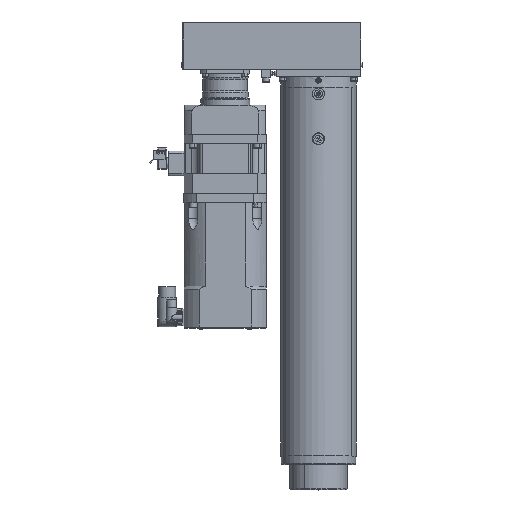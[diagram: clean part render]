
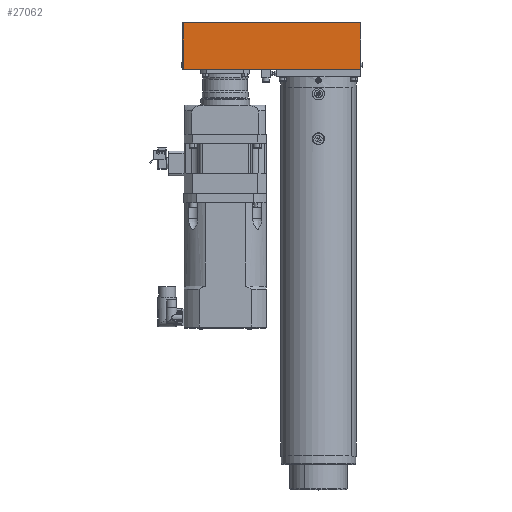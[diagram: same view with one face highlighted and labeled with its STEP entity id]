
A CAD part, top view. The second image highlights one B-rep face of the part: STEP entity #27062.
In plain terms, the highlighted planar face has unit normal (0, 0, 1).
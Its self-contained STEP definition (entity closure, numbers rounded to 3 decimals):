
#1762 = LINE ( 'NONE', #15530, #46093 ) ;
#2066 = LINE ( 'NONE', #50820, #13946 ) ;
#5300 = PLANE ( 'NONE',  #19189 ) ;
#6349 = EDGE_CURVE ( 'NONE', #44905, #47916, #23352, .T. ) ;
#8986 = CARTESIAN_POINT ( 'NONE',  ( -419.5, 1041.5, 199.5 ) ) ;
#9433 = LINE ( 'NONE', #8986, #25695 ) ;
#10472 = DIRECTION ( 'NONE',  ( -1., 0., 0. ) ) ;
#11394 = CARTESIAN_POINT ( 'NONE',  ( -418.5, 1041.5, 199.5 ) ) ;
#13946 = VECTOR ( 'NONE', #23480, 1000. ) ;
#14776 = EDGE_CURVE ( 'NONE', #47916, #43953, #1762, .T. ) ;
#15176 = ORIENTED_EDGE ( 'NONE', *, *, #6349, .T. ) ;
#15530 = CARTESIAN_POINT ( 'NONE',  ( -1., 1042., 199.5 ) ) ;
#15800 = VECTOR ( 'NONE', #50379, 1000. ) ;
#17334 = CARTESIAN_POINT ( 'NONE',  ( -418., 1042., 199.5 ) ) ;
#18974 = EDGE_CURVE ( 'NONE', #27481, #44905, #2066, .T. ) ;
#19189 = AXIS2_PLACEMENT_3D ( 'NONE', #17334, #50252, #10472 ) ;
#23352 = LINE ( 'NONE', #34676, #15800 ) ;
#23480 = DIRECTION ( 'NONE',  ( 0., -1., 0. ) ) ;
#25695 = VECTOR ( 'NONE', #29246, 1000. ) ;
#27062 = ADVANCED_FACE ( 'NONE', ( #31106 ), #5300, .F. ) ;
#27481 = VERTEX_POINT ( 'NONE', #11394 ) ;
#27757 = CARTESIAN_POINT ( 'NONE',  ( -1., 932., 199.5 ) ) ;
#27766 = EDGE_LOOP ( 'NONE', ( #15176, #46405, #51353, #31839 ) ) ;
#29246 = DIRECTION ( 'NONE',  ( -1., 0., 0. ) ) ;
#31106 = FACE_OUTER_BOUND ( 'NONE', #27766, .T. ) ;
#31839 = ORIENTED_EDGE ( 'NONE', *, *, #18974, .T. ) ;
#33456 = CARTESIAN_POINT ( 'NONE',  ( -418.5, 932., 199.5 ) ) ;
#34676 = CARTESIAN_POINT ( 'NONE',  ( -418., 932., 199.5 ) ) ;
#38007 = CARTESIAN_POINT ( 'NONE',  ( -1., 1041.5, 199.5 ) ) ;
#42697 = EDGE_CURVE ( 'NONE', #43953, #27481, #9433, .T. ) ;
#43953 = VERTEX_POINT ( 'NONE', #38007 ) ;
#44905 = VERTEX_POINT ( 'NONE', #33456 ) ;
#46093 = VECTOR ( 'NONE', #47572, 1000. ) ;
#46405 = ORIENTED_EDGE ( 'NONE', *, *, #14776, .T. ) ;
#47572 = DIRECTION ( 'NONE',  ( 0., 1., 0. ) ) ;
#47916 = VERTEX_POINT ( 'NONE', #27757 ) ;
#50252 = DIRECTION ( 'NONE',  ( 0., 0., -1. ) ) ;
#50379 = DIRECTION ( 'NONE',  ( 1., 0., 0. ) ) ;
#50820 = CARTESIAN_POINT ( 'NONE',  ( -418.5, 1042., 199.5 ) ) ;
#51353 = ORIENTED_EDGE ( 'NONE', *, *, #42697, .T. ) ;
